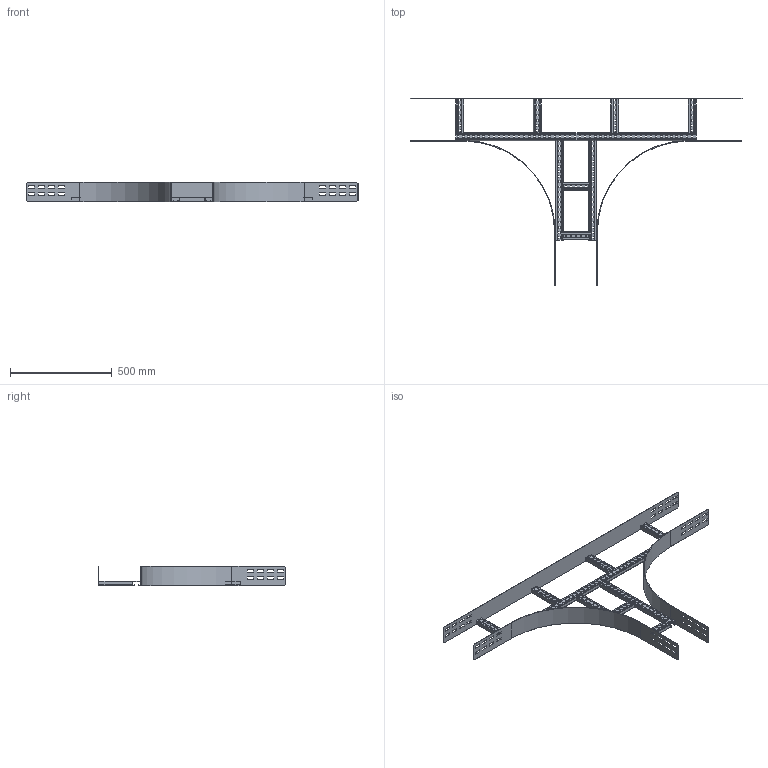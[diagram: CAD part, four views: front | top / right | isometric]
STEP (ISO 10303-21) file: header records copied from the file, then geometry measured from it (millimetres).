
FILE_DESCRIPTION(('Creo Elements/Direct Modeling STEP Export'),'2;1');
FILE_NAME('WPTP10-20-45.stp','2016-06-03T 7:32:35',(''),(''),'PTC Creo Elements/Direct Modeling STEP processor for AP214 (Solid Model)','PTC Creo Elements/Direct Modeling 19.0C 15-Aug-2015 (C) Parametric Technology GmbH','');
FILE_SCHEMA(('AUTOMOTIVE_DESIGN { 1 0 10303 214 1 1 1 1 }'));
Length unit declared in the file: millimetre
Products named in the file (7): WPTPS20.1.1.1; WPBI_100; WPKSP2_300.1; WPKS20; WPKSP1-20; WPAAG_100-20; WPTP10-20-45
Assembly tree (12 placements, depth 2):
  WPTP10-20-45
    WPAAG_100-20
    WPTPS20.1.1.1  x4
    WPKSP1-20
    WPKSP2_300.1  x2
    WPBI_100  x2
    WPKS20  x2
Bounding box: 1635 x 923 x 95 mm (x, y, z)
Volume: 1571236.4 mm3; surface area: 1408144 mm2
Topology: 12 solids, 12 shells, 1106 faces, 3246 edges, 2164 vertices
Faces by surface type: plane 676, cylinder 430
Entity records: 21785 total; most frequent: CARTESIAN_POINT 3749, ORIENTED_EDGE 3744, DIRECTION 3616, EDGE_CURVE 1872, VECTOR 1386, LINE 1386, VERTEX_POINT 1248, AXIS2_PLACEMENT_3D 1115
